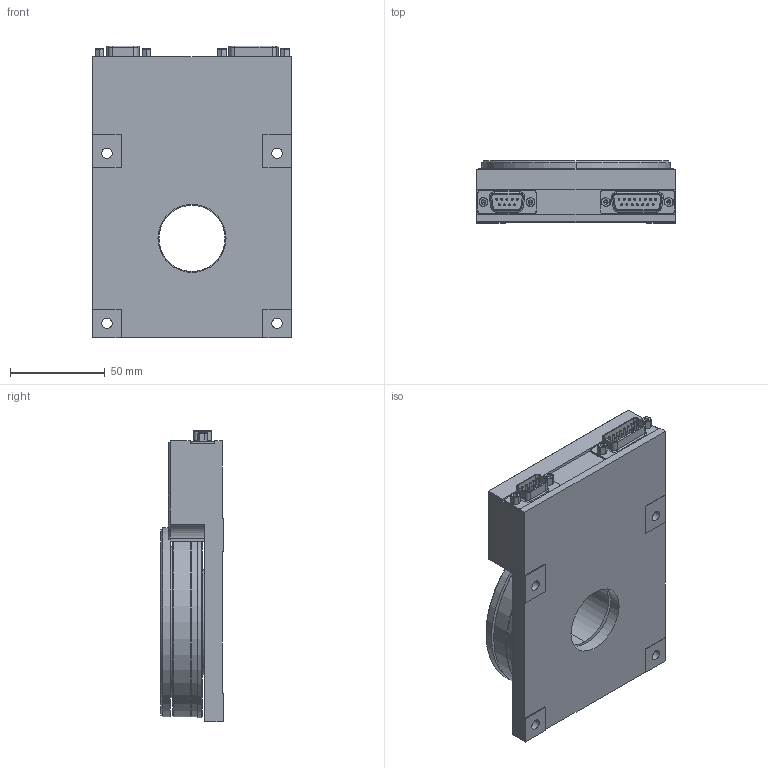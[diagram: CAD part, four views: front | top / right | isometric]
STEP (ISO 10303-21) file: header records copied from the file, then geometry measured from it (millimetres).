
FILE_DESCRIPTION((''),'2;1');
FILE_NAME('WEB_DT105-1NM-W_ASM','2018-06-28T',('de_pablo'),(''),'PRO/ENGINEER BY PARAMETRIC TECHNOLOGY CORPORATION, 2015280','PRO/ENGINEER BY PARAMETRIC TECHNOLOGY CORPORATION, 2015280','');
FILE_SCHEMA(('AUTOMOTIVE_DESIGN { 1 0 10303 214 1 1 1 1 }'));
Length unit declared in the file: millimetre
Products named in the file (6): WEB_DT105_BASIS_______00011176; WEB_DT105_TELLER______00011175; 9970902_9POL_STECKER; 9970904_15POL_STECKER; KT_SECHSKANTBOLZEN_F-GSCH1-5; WEB_DT105-1NM-W_ASM
Assembly tree (8 placements, depth 2):
  WEB_DT105-1NM-W_ASM
    WEB_DT105_BASIS_______00011176
    WEB_DT105_TELLER______00011175
    9970902_9POL_STECKER
    9970904_15POL_STECKER
    KT_SECHSKANTBOLZEN_F-GSCH1-5  x4
Bounding box: 105 x 33 x 154.05 mm (x, y, z)
Volume: 378645.3 mm3; surface area: 77784.3 mm2
Topology: 8 solids, 8 shells, 1225 faces, 3082 edges, 1961 vertices
Faces by surface type: plane 776, cylinder 267, torus 108, cone 70, bspline 4
Entity records: 45789 total; most frequent: CARTESIAN_POINT 6567, DIRECTION 5998, ORIENTED_EDGE 5880, EDGE_CURVE 2940, PRESENTATION_STYLE_ASSIGNMENT 2933, STYLED_ITEM 2908, CURVE_STYLE 2900, VECTOR 2202
